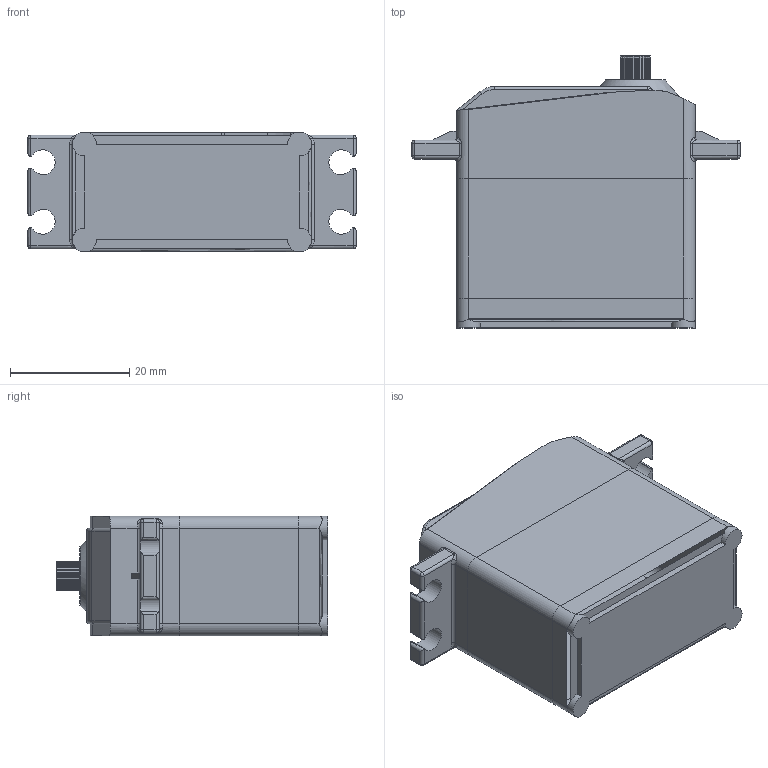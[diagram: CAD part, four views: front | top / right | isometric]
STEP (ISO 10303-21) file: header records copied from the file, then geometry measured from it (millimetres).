
FILE_DESCRIPTION(/* description */ ('STEP AP242','CAx-IF Rec.Pracs.---Representation and Presentation of Product Manufacturing Information (PMI)---4.0---2014-10-13','CAx-IF Rec.Pracs.---3D Tessellated Geometry---0.4---2014-09-14','2;1'),/* implementation_level */ '2;1');
FILE_NAME(/* name */ 'Arm Assembly - Servo Motor (3)',/* time_stamp */ '2025-06-20T22:34:17Z',/* author */ (''),/* organization */ (''),/* preprocessor_version */ 'ST-DEVELOPER v20',/* originating_system */ 'ONSHAPE BY PTC INC, 1.199',/* authorisation */ ' ');
FILE_SCHEMA (('AP242_MANAGED_MODEL_BASED_3D_ENGINEERING_MIM_LF { 1 0 10303 442 1 1 4 }'));
Length unit declared in the file: metre
Products named in the file (1): Servo Motor
Bounding box: 55.1 x 45.65 x 20.1 mm (x, y, z)
Volume: 32510.4 mm3; surface area: 7090.5 mm2
Topology: 1 solids, 1 shells, 354 faces, 957 edges, 596 vertices
Faces by surface type: cylinder 163, plane 151, bspline 17, torus 12, sphere 10, cone 1
Full cylindrical faces by diameter (mm): 2 x1, 3 x1
Entity records: 12519 total; most frequent: CARTESIAN_POINT 2414, DIRECTION 1881, ORIENTED_EDGE 1878, EDGE_CURVE 939, AXIS2_PLACEMENT_3D 659, VERTEX_POINT 594, LINE 563, VECTOR 563
